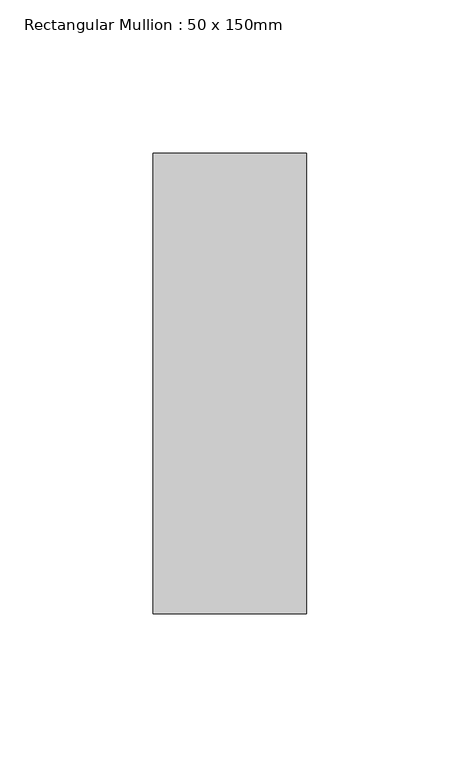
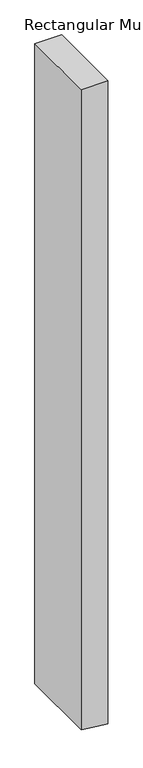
"""IFC4 building model written with IfcOpenShell, lengths in millimetres: member geometry, Rectangular Mullion : 50 x 150mm."""

from ifc_helpers import new_model, si_unit, frame, origin, place, context, project, spatial, polyline, outline, extrude, source, transform, mapped, element, save


def rectangular_mullion_50_x_150mm_57c85e7e(model_context):
    return source(origin(), model_context, "Body", "SweptSolid", [
        extrude(outline(polyline([(0.0, 25.0), (0.0, -25.0), (-1269.943097, -25.0), (-1273.4232562, 5.6423937), (-1275.6217644, 25.0), (0.0, 25.0)])), frame((0.0, -75.0, 0.0), z_axis=(0.0, 1.0, 0.0), x_axis=(0.0, 0.0, 1.0)), (0.0, 0.0, 1.0), 150.0),
    ])


if __name__ == "__main__":
    model = new_model("IFC4")
    model_context = context("Model", 3, world=origin())
    ifc_project = project(units=[si_unit("LENGTHUNIT", "METRE", prefix="MILLI")], contexts=[model_context])
    site = spatial("IfcSite", under=ifc_project)
    building = spatial("IfcBuilding", under=site)
    placement = place(None, origin())
    rectangular_mullion_50_x_150mm_shape = rectangular_mullion_50_x_150mm_57c85e7e(model_context)
    element("IfcMember", 1, ObjectType="Rectangular Mullion : 50 x 150mm", at=placement, inside=building, context=model_context, shape_type="MappedRepresentation", body=[
        mapped(rectangular_mullion_50_x_150mm_shape, transform((0.0, 0.0, 0.0), x_axis=(1.0, 0.0, 0.0), y_axis=(0.0, 1.0, 0.0), z_axis=(0.0, 0.0, 1.0))),
    ])
    save(model, "model.ifc")
